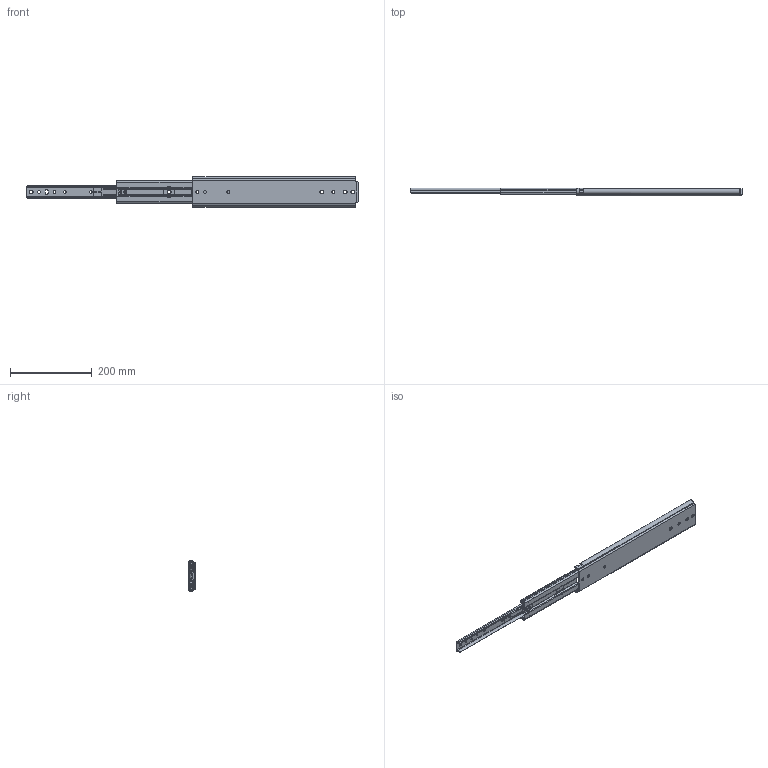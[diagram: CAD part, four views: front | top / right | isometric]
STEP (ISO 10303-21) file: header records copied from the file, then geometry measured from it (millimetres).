
FILE_DESCRIPTION((''),'2;1');
FILE_NAME('DG-76-02-16_ASM','2023-05-15T',('jishu015'),(''),'PRO/ENGINEER BY PARAMETRIC TECHNOLOGY CORPORATION, 2010280','PRO/ENGINEER BY PARAMETRIC TECHNOLOGY CORPORATION, 2010280','');
FILE_SCHEMA(('CONFIG_CONTROL_DESIGN'));
Length unit declared in the file: millimetre
Products named in the file (18): KP-76-04WAIKE3_______________; 1076-WAIKEZIDANJIAO31___; WAIK72________________ASM; 1076XIAOZHUTIAO1_______________; 163_______________; 1076XIAOZHUTIAO1________________ASM; KP-76-04ZHONGGUI31; 76CHANGGUIZHONGGUIJIAO31______; 3X6WODIN3_______________; PJ-76-33_______________; 76-XIAOZHUJIA3_______________; GANGZHU-XIAO3_______________; ZHUJIA-XIAO3________________ASM; ZHONGGUI3________________ASM; KP-76-04NEIGUI3_______________; XIN-TANPIAN_______________; NEIGUI3________________ASM; DG-76-02-16_ASM
Assembly tree (38 placements, depth 4):
  DG-76-02-16_ASM
    WAIK72________________ASM
      KP-76-04WAIKE3_______________
      1076-WAIKEZIDANJIAO31___  x2
    1076XIAOZHUTIAO1________________ASM  x2
      1076XIAOZHUTIAO1_______________
      163_______________
    ZHONGGUI3________________ASM
      KP-76-04ZHONGGUI31
      76CHANGGUIZHONGGUIJIAO31______
      3X6WODIN3_______________
      PJ-76-33_______________
      ZHUJIA-XIAO3________________ASM
        76-XIAOZHUJIA3_______________
        GANGZHU-XIAO3_______________  x14
    NEIGUI3________________ASM
      KP-76-04NEIGUI3_______________
      XIN-TANPIAN_______________
Bounding box: 812.8 x 19.5 x 75.3 mm (x, y, z)
Volume: 262689.2 mm3; surface area: 253769.1 mm2
Topology: 40 solids, 40 shells, 1046 faces, 3226 edges, 2065 vertices
Faces by surface type: plane 599, cylinder 350, sphere 58, extrusion 21, cone 18
Entity records: 32719 total; most frequent: CARTESIAN_POINT 6994, ORIENTED_EDGE 5556, DIRECTION 5139, EDGE_CURVE 2778, VERTEX_POINT 1825, VECTOR 1719, AXIS2_PLACEMENT_3D 1710, LINE 1698
